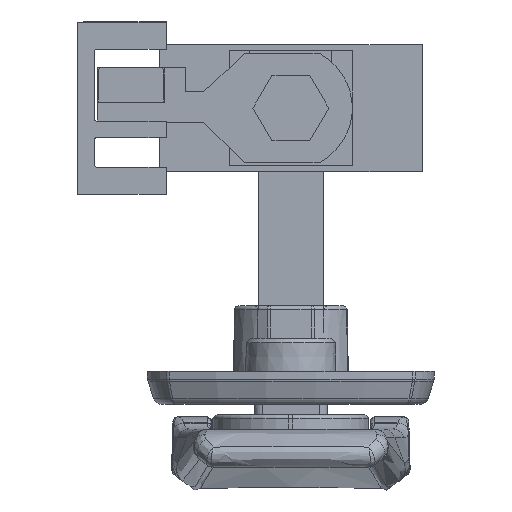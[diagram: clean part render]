
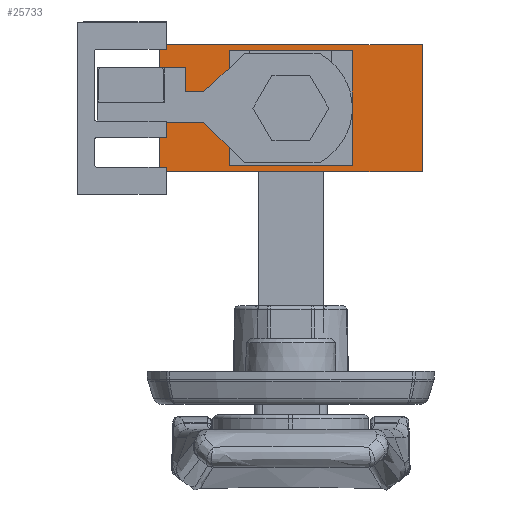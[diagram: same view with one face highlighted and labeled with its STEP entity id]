
A CAD part, front view. The second image highlights one B-rep face of the part: STEP entity #25733.
In plain terms, the highlighted planar face has unit normal (0, -1, 0).
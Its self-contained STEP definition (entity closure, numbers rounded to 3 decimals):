
#237 = VERTEX_POINT ( 'NONE', #19320 ) ;
#748 = PLANE ( 'NONE',  #13043 ) ;
#900 = EDGE_LOOP ( 'NONE', ( #17577, #12672, #24446, #5798 ) ) ;
#1103 = EDGE_CURVE ( 'NONE', #24639, #237, #15823, .T. ) ;
#1168 = DIRECTION ( 'NONE',  ( 0., 1., 0. ) ) ;
#1526 = VERTEX_POINT ( 'NONE', #3380 ) ;
#2537 = CARTESIAN_POINT ( 'NONE',  ( -16., -199.25, 7.75 ) ) ;
#3380 = CARTESIAN_POINT ( 'NONE',  ( 7., -199.25, -6.25 ) ) ;
#3546 = EDGE_CURVE ( 'NONE', #237, #20719, #13791, .T. ) ;
#4110 = CARTESIAN_POINT ( 'NONE',  ( 7., -199.25, 6.25 ) ) ;
#4476 = EDGE_LOOP ( 'NONE', ( #4480, #21815, #23167, #19727 ) ) ;
#4480 = ORIENTED_EDGE ( 'NONE', *, *, #19027, .F. ) ;
#4542 = LINE ( 'NONE', #2537, #18689 ) ;
#5313 = DIRECTION ( 'NONE',  ( 1., 0., 0. ) ) ;
#5369 = LINE ( 'NONE', #16084, #12133 ) ;
#5798 = ORIENTED_EDGE ( 'NONE', *, *, #1103, .T. ) ;
#6577 = CARTESIAN_POINT ( 'NONE',  ( 16., -199.25, 7.75 ) ) ;
#6668 = LINE ( 'NONE', #4110, #9930 ) ;
#6956 = DIRECTION ( 'NONE',  ( 0., 0., -1. ) ) ;
#7376 = DIRECTION ( 'NONE',  ( 0., 0., -1. ) ) ;
#7516 = CARTESIAN_POINT ( 'NONE',  ( -7., -199.25, -6.25 ) ) ;
#8119 = LINE ( 'NONE', #22920, #12509 ) ;
#8646 = LINE ( 'NONE', #19503, #9863 ) ;
#9859 = DIRECTION ( 'NONE',  ( 0., 0., 1. ) ) ;
#9863 = VECTOR ( 'NONE', #14840, 1000. ) ;
#9930 = VECTOR ( 'NONE', #15252, 1000. ) ;
#10149 = VERTEX_POINT ( 'NONE', #10731 ) ;
#10731 = CARTESIAN_POINT ( 'NONE',  ( -7., -199.25, -6.25 ) ) ;
#11968 = FACE_BOUND ( 'NONE', #4476, .T. ) ;
#12025 = EDGE_CURVE ( 'NONE', #24639, #18048, #4542, .T. ) ;
#12107 = CARTESIAN_POINT ( 'NONE',  ( -16., -199.25, 7.75 ) ) ;
#12133 = VECTOR ( 'NONE', #24443, 1000. ) ;
#12419 = CARTESIAN_POINT ( 'NONE',  ( 7., -199.25, 6.25 ) ) ;
#12509 = VECTOR ( 'NONE', #20665, 1000. ) ;
#12672 = ORIENTED_EDGE ( 'NONE', *, *, #24768, .F. ) ;
#12762 = EDGE_CURVE ( 'NONE', #13534, #15821, #8119, .T. ) ;
#13043 = AXIS2_PLACEMENT_3D ( 'NONE', #12107, #1168, #9859 ) ;
#13513 = CARTESIAN_POINT ( 'NONE',  ( -16., -199.25, -7.75 ) ) ;
#13534 = VERTEX_POINT ( 'NONE', #12419 ) ;
#13791 = LINE ( 'NONE', #13513, #14339 ) ;
#14339 = VECTOR ( 'NONE', #5313, 1000. ) ;
#14840 = DIRECTION ( 'NONE',  ( 0., 0., -1. ) ) ;
#15252 = DIRECTION ( 'NONE',  ( 0., 0., 1. ) ) ;
#15756 = VECTOR ( 'NONE', #6956, 1000. ) ;
#15821 = VERTEX_POINT ( 'NONE', #25634 ) ;
#15823 = LINE ( 'NONE', #21910, #15756 ) ;
#16084 = CARTESIAN_POINT ( 'NONE',  ( -7., -199.25, -6.25 ) ) ;
#17577 = ORIENTED_EDGE ( 'NONE', *, *, #3546, .T. ) ;
#18048 = VERTEX_POINT ( 'NONE', #6577 ) ;
#18217 = LINE ( 'NONE', #7516, #20064 ) ;
#18689 = VECTOR ( 'NONE', #24192, 1000. ) ;
#19027 = EDGE_CURVE ( 'NONE', #15821, #10149, #18217, .T. ) ;
#19320 = CARTESIAN_POINT ( 'NONE',  ( -16., -199.25, -7.75 ) ) ;
#19503 = CARTESIAN_POINT ( 'NONE',  ( 16., -199.25, 7.75 ) ) ;
#19727 = ORIENTED_EDGE ( 'NONE', *, *, #23474, .F. ) ;
#20064 = VECTOR ( 'NONE', #7376, 1000. ) ;
#20564 = FACE_OUTER_BOUND ( 'NONE', #900, .T. ) ;
#20665 = DIRECTION ( 'NONE',  ( -1., 0., 0. ) ) ;
#20719 = VERTEX_POINT ( 'NONE', #22695 ) ;
#20932 = CARTESIAN_POINT ( 'NONE',  ( -16., -199.25, 7.75 ) ) ;
#21815 = ORIENTED_EDGE ( 'NONE', *, *, #12762, .F. ) ;
#21910 = CARTESIAN_POINT ( 'NONE',  ( -16., -199.25, 7.75 ) ) ;
#22695 = CARTESIAN_POINT ( 'NONE',  ( 16., -199.25, -7.75 ) ) ;
#22920 = CARTESIAN_POINT ( 'NONE',  ( 7., -199.25, 6.25 ) ) ;
#23167 = ORIENTED_EDGE ( 'NONE', *, *, #24821, .F. ) ;
#23474 = EDGE_CURVE ( 'NONE', #10149, #1526, #5369, .T. ) ;
#24192 = DIRECTION ( 'NONE',  ( 1., 0., 0. ) ) ;
#24443 = DIRECTION ( 'NONE',  ( 1., 0., 0. ) ) ;
#24446 = ORIENTED_EDGE ( 'NONE', *, *, #12025, .F. ) ;
#24639 = VERTEX_POINT ( 'NONE', #20932 ) ;
#24768 = EDGE_CURVE ( 'NONE', #18048, #20719, #8646, .T. ) ;
#24821 = EDGE_CURVE ( 'NONE', #1526, #13534, #6668, .T. ) ;
#25634 = CARTESIAN_POINT ( 'NONE',  ( -7., -199.25, 6.25 ) ) ;
#25733 = ADVANCED_FACE ( 'NONE', ( #11968, #20564 ), #748, .F. ) ;
